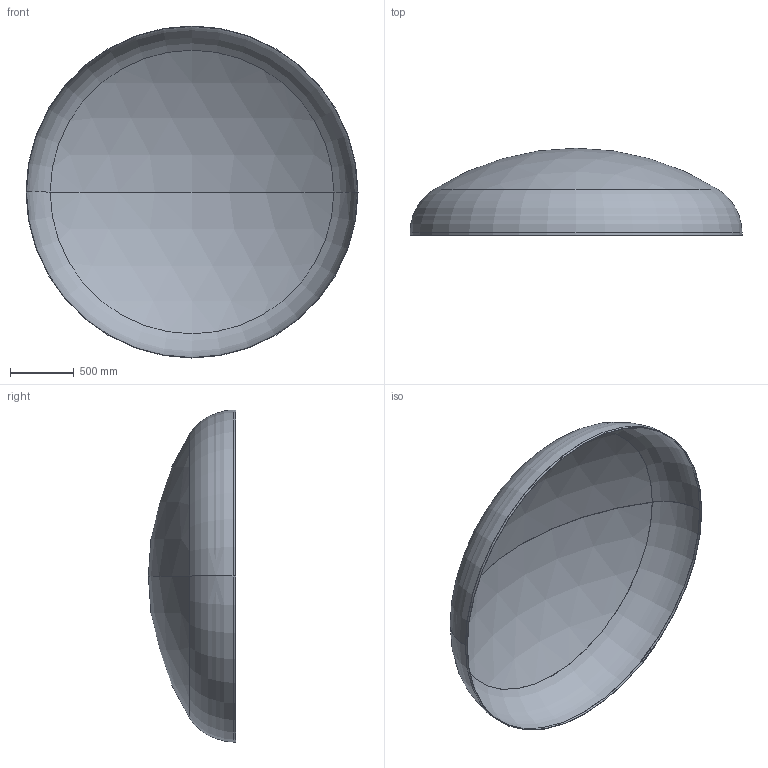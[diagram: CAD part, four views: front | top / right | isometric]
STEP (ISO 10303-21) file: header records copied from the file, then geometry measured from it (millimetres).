
FILE_DESCRIPTION (( 'STEP AP203' ), '1' );
FILE_NAME ('DIN 28013 Korbbogenform_-_Boden DIN 28013 - 2600 x 20 - I - s=3.step', '2016-07-01T15:48:43', ( '' ), ( '' ), 'SwSTEP 2.0', 'SolidWorks 2013', '' );
FILE_SCHEMA (( 'CONFIG_CONTROL_DESIGN' ));
Length unit declared in the file: millimetre
Products named in the file (1): DIN 28013 Korbbogenform_-_Boden DIN 28013 - 2600 x 20 - I - s=3
Bounding box: 2600 x 682.51 x 2600 mm (x, y, z)
Volume: 22513971.1 mm3; surface area: 15033802.8 mm2
Topology: 1 solids, 1 shells, 13 faces, 24 edges, 14 vertices
Faces by surface type: torus 4, cylinder 4, sphere 4, plane 1
Entity records: 407 total; most frequent: DIRECTION 72, CARTESIAN_POINT 52, ORIENTED_EDGE 48, AXIS2_PLACEMENT_3D 34, EDGE_CURVE 24, CIRCLE 20, EDGE_LOOP 14, VERTEX_POINT 14
